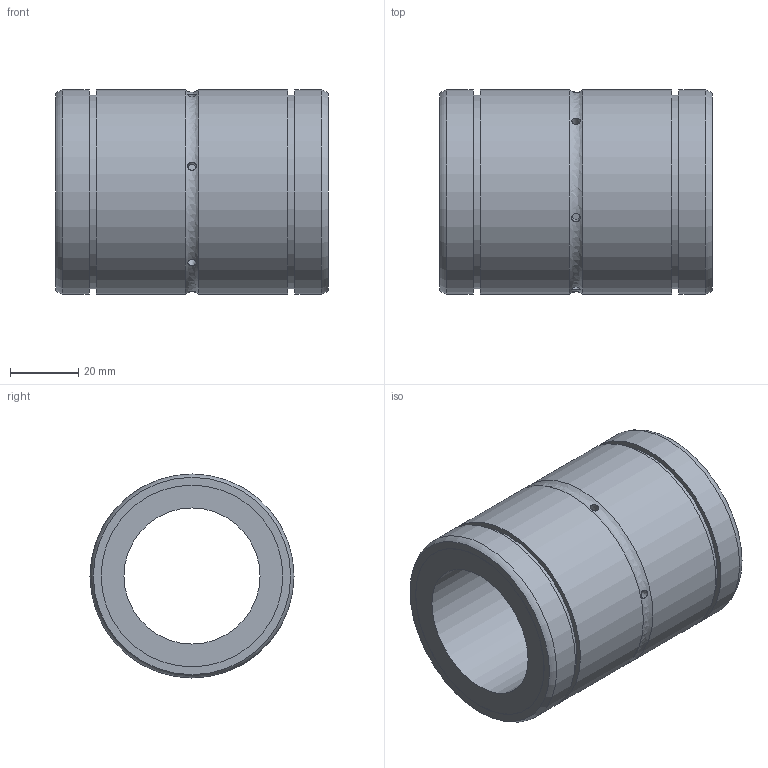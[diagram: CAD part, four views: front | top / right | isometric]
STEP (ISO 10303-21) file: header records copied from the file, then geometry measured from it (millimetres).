
FILE_DESCRIPTION((''),'2;1');
FILE_NAME('D:\製品 (図面)\カタログ用3D\リニアベアリング関連\STEP形式\L-OH\L40-OH.stp','2010-06-04T09:31:52',('Tsuchiya'),(''),'Autodesk Inventor 10','Autodesk Inventor 10','');
FILE_SCHEMA(('AUTOMOTIVE_DESIGN { 1 0 10303 214 1 1 1 1 }'));
Length unit declared in the file: millimetre
Products named in the file (1): L40-OH
Bounding box: 80 x 60 x 60 mm (x, y, z)
Volume: 123545 mm3; surface area: 29239.7 mm2
Topology: 1 solids, 1 shells, 32 faces, 56 edges, 38 vertices
Faces by surface type: cylinder 15, plane 8, bspline 7, torus 2
Full cylindrical faces by diameter (mm): 40 x1, 53.4 x2, 57 x2, 60 x4
Entity records: 1357 total; most frequent: CARTESIAN_POINT 847, DIRECTION 92, ORIENTED_EDGE 64, EDGE_LOOP 64, AXIS2_PLACEMENT_3D 46, VERTEX_POINT 32, EDGE_CURVE 32, FACE_OUTER_BOUND 32
